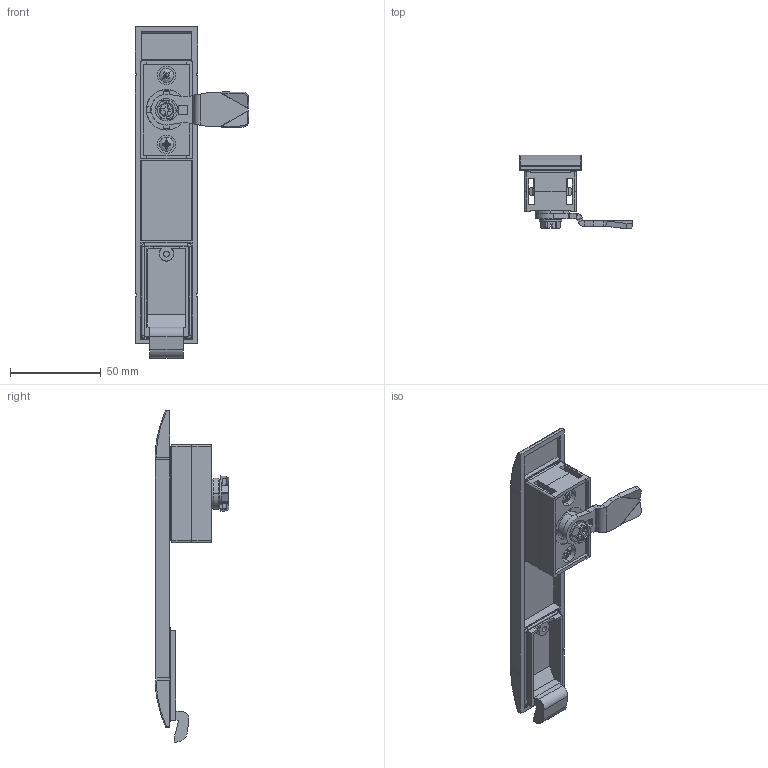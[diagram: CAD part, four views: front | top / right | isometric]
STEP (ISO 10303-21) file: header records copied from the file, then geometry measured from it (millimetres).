
FILE_DESCRIPTION (( 'STEP AP214' ), '1' );
FILE_NAME ('RW400-M.STEP', '2016-09-07T11:23:29', ( '' ), ( '' ), 'SwSTEP 2.0', 'SolidWorks 2015', '' );
FILE_SCHEMA (( 'AUTOMOTIVE_DESIGN' ));
Length unit declared in the file: millimetre
Products named in the file (13): O-RING 42 x 1,5_42x1,5; O-RING 12x2_A; DIN 7981_F.4.1x22; S6PZ_M6x20; 1C.J-1XX.GH.L_#3, 1.65.22.45; 2.PT.001_A; 1C.901.000_A; 1C.MZ2_A; 1C.MZ1.001.02-B_B; 1C.MZ1.01.00.00_A; 2.RW400.00.00.02_D5; 2.RW400.00.00.01_A; RW400-M
Assembly tree (15 placements, depth 3):
  RW400-M
    2.RW400.00.00.01_A
    2.RW400.00.00.02_D5
    1C.MZ2_A
      1C.MZ1.01.00.00_A  x2
      1C.MZ1.001.02-B_B
    1C.901.000_A
    2.PT.001_A
    1C.J-1XX.GH.L_#3, 1.65.22.45
    S6PZ_M6x20
    DIN 7981_F.4.1x22  x2
    O-RING 12x2_A
    O-RING 42 x 1,5_42x1,5  x2
Bounding box: 62.4 x 40.71 x 183 mm (x, y, z)
Volume: 55724.8 mm3; surface area: 46361.6 mm2
Topology: 15 solids, 15 shells, 978 faces, 2626 edges, 1689 vertices
Faces by surface type: plane 477, cylinder 364, cone 57, torus 46, bspline 26, sphere 8
Entity records: 28644 total; most frequent: CARTESIAN_POINT 7690, ORIENTED_EDGE 4208, DIRECTION 3855, EDGE_CURVE 2104, AXIS2_PLACEMENT_3D 1381, VERTEX_POINT 1346, VECTOR 1093, LINE 1093
